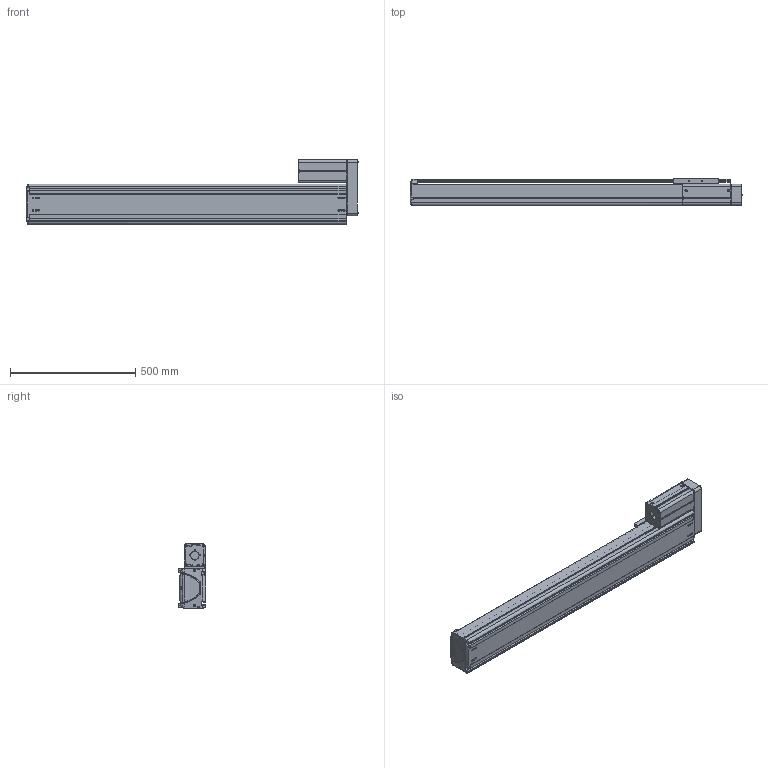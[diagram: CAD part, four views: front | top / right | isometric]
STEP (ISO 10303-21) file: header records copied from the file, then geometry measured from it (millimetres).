
FILE_DESCRIPTION((''),'2;1');
FILE_NAME('BE50F-UR-M_B-A0_IGS_PRT','2017-06-18T',(' '),(''),'PRO/ENGINEER BY PARAMETRIC TECHNOLOGY CORPORATION, 2015030','PRO/ENGINEER BY PARAMETRIC TECHNOLOGY CORPORATION, 2015030','');
FILE_SCHEMA(('CONFIG_CONTROL_DESIGN'));
Length unit declared in the file: millimetre
Products named in the file (1): BE50F-UR-M_B-A0_IGS_PRT
Bounding box: 1325.88 x 110 x 257 mm (x, y, z)
Volume: 5479603 mm3; surface area: 2265414.7 mm2
Topology: 6 solids, 136 shells, 2241 faces, 6132 edges, 4012 vertices
Faces by surface type: plane 1004, cylinder 967, cone 131, torus 59, bspline 48, sphere 32
Entity records: 74465 total; most frequent: CARTESIAN_POINT 17036, DIRECTION 12003, ORIENTED_EDGE 11684, EDGE_CURVE 6086, AXIS2_PLACEMENT_3D 4285, VERTEX_POINT 4006, VECTOR 3433, LINE 3433
